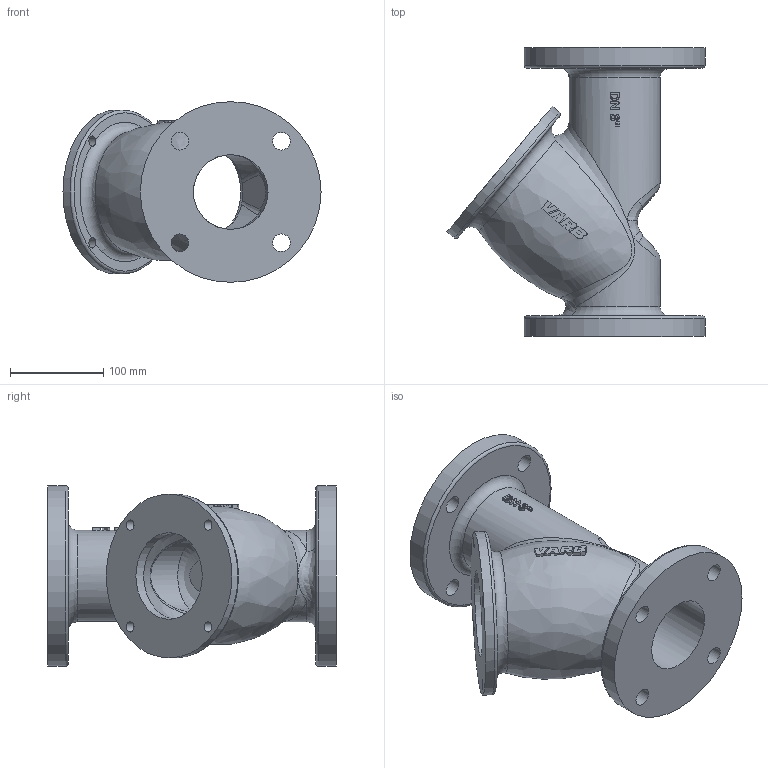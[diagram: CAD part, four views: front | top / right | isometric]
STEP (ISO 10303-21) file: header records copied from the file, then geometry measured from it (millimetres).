
FILE_DESCRIPTION( ( 'Unknown' ), '1' );
FILE_NAME( 'D:/Documentos Murilo/Desktop/VARB/2022/06 JUNHO/DESENHOS FILTRO Y 97/FILTRO 3/FILTRO 3.stp', 'Unknown', ( 'Unknown' ), ( 'Unknown' ), 'PSStep 11.0', 'Unknown', ' ' );
FILE_SCHEMA( ( 'AUTOMOTIVE_DESIGN { 1 0 10303 214 1 1 1 1 }' ) );
Length unit declared in the file: millimetre
Products named in the file (1): 1
Bounding box: 277.05 x 310 x 194 mm (x, y, z)
Volume: 2311219 mm3; surface area: 385569.1 mm2
Topology: 1 solids, 1 shells, 163 faces, 419 edges, 271 vertices
Faces by surface type: plane 84, cylinder 34, bspline 30, torus 7, extrusion 6, sphere 2
Full cylindrical faces by diameter (mm): 11 x4, 19 x8, 80.2 x2, 93 x2, 98 x1, 176 x1, 194 x2
Entity records: 17316 total; most frequent: CARTESIAN_POINT 12452, ORIENTED_EDGE 742, DIRECTION 639, EDGE_CURVE 371, VERTEX_POINT 253, AXIS2_PLACEMENT_3D 245, EDGE_LOOP 234, FACE_OUTER_BOUND 191
